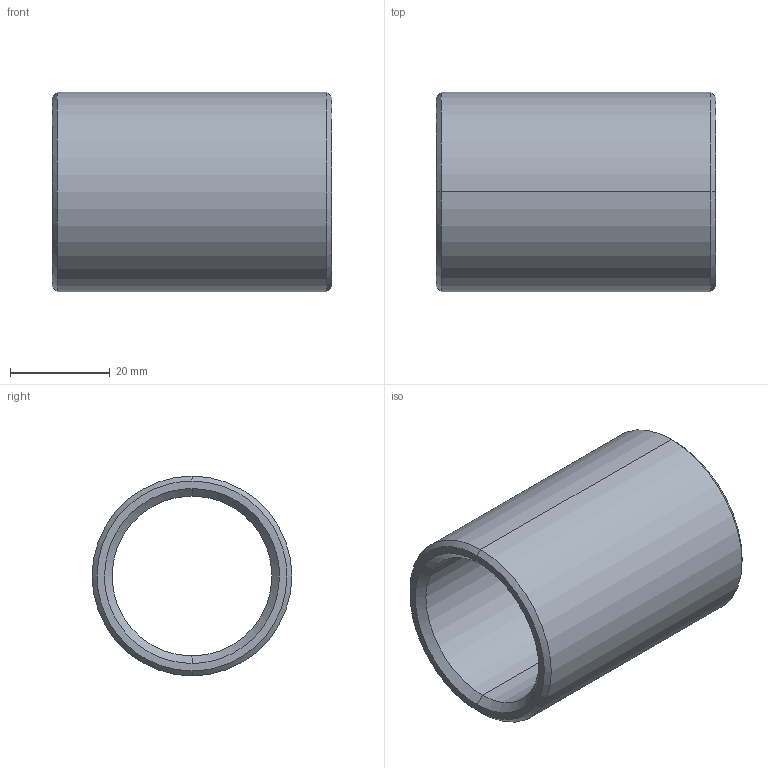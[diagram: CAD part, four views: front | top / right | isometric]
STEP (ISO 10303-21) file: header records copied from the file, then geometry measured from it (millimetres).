
FILE_DESCRIPTION(('CATIA V5 STEP Exchange'),'2;1');
FILE_NAME('C:\Users\Utente\Desktop\IO LAVORO\3D X SITO CF\X SITO\PLASTICA\352\352-32X56.stp','2021-04-14T15:01:29+00:00',('none'),('none'),'CATIA Version 5 Release 20 GA (IN-10)','CATIA V5 STEP AP203','none');
FILE_SCHEMA(('CONFIG_CONTROL_DESIGN'));
Length unit declared in the file: millimetre
Products named in the file (1): 352-32X56
Bounding box: 56 x 40 x 40 mm (x, y, z)
Volume: 25071.7 mm3; surface area: 13293.7 mm2
Topology: 1 solids, 1 shells, 14 faces, 44 edges, 32 vertices
Faces by surface type: cone 6, cylinder 4, plane 2, torus 2
Entity records: 634 total; most frequent: CARTESIAN_POINT 203, ORIENTED_EDGE 88, DIRECTION 64, EDGE_CURVE 44, AXIS2_PLACEMENT_3D 41, VERTEX_POINT 32, CIRCLE 26, EDGE_LOOP 16
